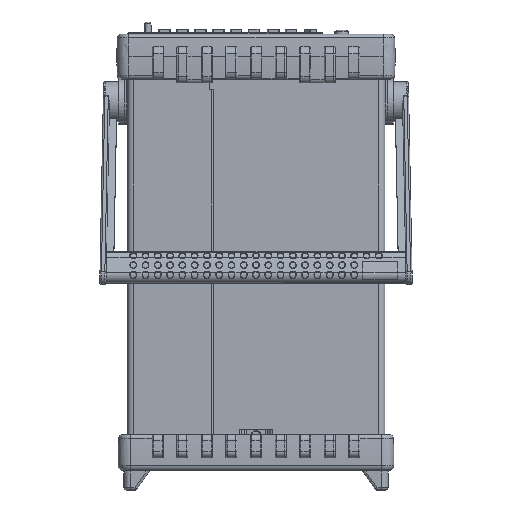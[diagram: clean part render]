
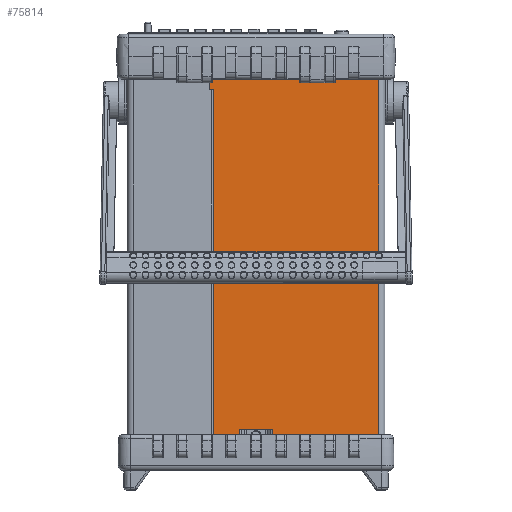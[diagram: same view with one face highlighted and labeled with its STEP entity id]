
A CAD part, front view. The second image highlights one B-rep face of the part: STEP entity #75814.
In plain terms, the highlighted planar face has unit normal (0, -1, 0).
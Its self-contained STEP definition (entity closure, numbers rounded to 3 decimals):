
#6057 = EDGE_CURVE ( 'NONE', #23082, #22445, #6914, .T. ) ;
#6097 = EDGE_CURVE ( 'NONE', #23082, #23088, #6968, .T. ) ;
#6914 = LINE ( 'NONE', #73503, #6919 ) ;
#6919 = VECTOR ( 'NONE', #73505, 1000. ) ;
#6968 = LINE ( 'NONE', #73531, #7012 ) ;
#7012 = VECTOR ( 'NONE', #73603, 1000. ) ;
#16540 = ORIENTED_EDGE ( 'NONE', *, *, #105175, .F. ) ;
#16542 = ORIENTED_EDGE ( 'NONE', *, *, #105173, .T. ) ;
#16544 = ORIENTED_EDGE ( 'NONE', *, *, #105171, .F. ) ;
#16546 = ORIENTED_EDGE ( 'NONE', *, *, #105168, .F. ) ;
#16548 = ORIENTED_EDGE ( 'NONE', *, *, #105166, .T. ) ;
#16551 = ORIENTED_EDGE ( 'NONE', *, *, #105164, .T. ) ;
#16553 = ORIENTED_EDGE ( 'NONE', *, *, #105161, .F. ) ;
#16555 = ORIENTED_EDGE ( 'NONE', *, *, #105178, .F. ) ;
#16557 = ORIENTED_EDGE ( 'NONE', *, *, #105159, .T. ) ;
#16558 = ORIENTED_EDGE ( 'NONE', *, *, #105157, .T. ) ;
#16559 = ORIENTED_EDGE ( 'NONE', *, *, #6057, .F. ) ;
#16561 = ORIENTED_EDGE ( 'NONE', *, *, #6097, .T. ) ;
#21567 = VERTEX_POINT ( 'NONE', #28842 ) ;
#21572 = VERTEX_POINT ( 'NONE', #28847 ) ;
#21578 = VERTEX_POINT ( 'NONE', #28855 ) ;
#21598 = VERTEX_POINT ( 'NONE', #28874 ) ;
#21743 = VERTEX_POINT ( 'NONE', #29028 ) ;
#21796 = VERTEX_POINT ( 'NONE', #29082 ) ;
#22445 = VERTEX_POINT ( 'NONE', #29771 ) ;
#22542 = VERTEX_POINT ( 'NONE', #29875 ) ;
#22816 = VERTEX_POINT ( 'NONE', #30221 ) ;
#22971 = VERTEX_POINT ( 'NONE', #30482 ) ;
#23082 = VERTEX_POINT ( 'NONE', #30669 ) ;
#23088 = VERTEX_POINT ( 'NONE', #30677 ) ;
#23241 = AXIS2_PLACEMENT_3D ( 'NONE', #48490, #48582, #48583 ) ;
#28410 = LINE ( 'NONE', #35940, #28438 ) ;
#28416 = LINE ( 'NONE', #35930, #28420 ) ;
#28418 = LINE ( 'NONE', #35949, #28424 ) ;
#28420 = VECTOR ( 'NONE', #35932, 1000. ) ;
#28422 = LINE ( 'NONE', #35954, #28427 ) ;
#28424 = VECTOR ( 'NONE', #35952, 1000. ) ;
#28426 = LINE ( 'NONE', #35959, #28430 ) ;
#28427 = VECTOR ( 'NONE', #35957, 1000. ) ;
#28428 = LINE ( 'NONE', #35964, #28433 ) ;
#28430 = VECTOR ( 'NONE', #35962, 1000. ) ;
#28432 = LINE ( 'NONE', #35969, #28435 ) ;
#28433 = VECTOR ( 'NONE', #35967, 1000. ) ;
#28435 = VECTOR ( 'NONE', #35972, 1000. ) ;
#28437 = LINE ( 'NONE', #35978, #28442 ) ;
#28438 = VECTOR ( 'NONE', #35974, 1000. ) ;
#28440 = LINE ( 'NONE', #35983, #28447 ) ;
#28442 = VECTOR ( 'NONE', #35981, 1000. ) ;
#28444 = LINE ( 'NONE', #35988, #28451 ) ;
#28447 = VECTOR ( 'NONE', #35986, 1000. ) ;
#28451 = VECTOR ( 'NONE', #35991, 1000. ) ;
#28842 = CARTESIAN_POINT ( 'NONE',  ( -38.05, -42.6, -340.05 ) ) ;
#28847 = CARTESIAN_POINT ( 'NONE',  ( -38.05, -42.6, -328.05 ) ) ;
#28855 = CARTESIAN_POINT ( 'NONE',  ( -13.743, -42.6, -318.05 ) ) ;
#28874 = CARTESIAN_POINT ( 'NONE',  ( 13.743, -42.6, -318.05 ) ) ;
#29028 = CARTESIAN_POINT ( 'NONE',  ( 100., -42.6, -29.05 ) ) ;
#29082 = CARTESIAN_POINT ( 'NONE',  ( -13.743, -42.6, -328.05 ) ) ;
#29771 = CARTESIAN_POINT ( 'NONE',  ( -38.05, -42.6, -41.05 ) ) ;
#29875 = CARTESIAN_POINT ( 'NONE',  ( 100., -42.6, -340.05 ) ) ;
#30221 = CARTESIAN_POINT ( 'NONE',  ( -38.05, -42.6, -29.05 ) ) ;
#30482 = CARTESIAN_POINT ( 'NONE',  ( 13.743, -42.6, -328.05 ) ) ;
#30669 = CARTESIAN_POINT ( 'NONE',  ( -34.4, -42.6, -41.05 ) ) ;
#30677 = CARTESIAN_POINT ( 'NONE',  ( -34.4, -42.6, -328.05 ) ) ;
#35930 = CARTESIAN_POINT ( 'NONE',  ( -38.05, -42.6, -29.05 ) ) ;
#35932 = DIRECTION ( 'NONE',  ( 0., 0., -1. ) ) ;
#35940 = CARTESIAN_POINT ( 'NONE',  ( 13.743, -42.6, -298.05 ) ) ;
#35949 = CARTESIAN_POINT ( 'NONE',  ( -38.05, -42.6, -29.05 ) ) ;
#35952 = DIRECTION ( 'NONE',  ( -1., 0., 0. ) ) ;
#35954 = CARTESIAN_POINT ( 'NONE',  ( -38.05, -42.6, -340.05 ) ) ;
#35957 = DIRECTION ( 'NONE',  ( -1., 0., 0. ) ) ;
#35959 = CARTESIAN_POINT ( 'NONE',  ( -38.05, -42.6, -29.05 ) ) ;
#35962 = DIRECTION ( 'NONE',  ( 0., 0., -1. ) ) ;
#35964 = CARTESIAN_POINT ( 'NONE',  ( -34.4, -42.6, -328.05 ) ) ;
#35967 = DIRECTION ( 'NONE',  ( -1., 0., 0. ) ) ;
#35969 = CARTESIAN_POINT ( 'NONE',  ( -12.5, -42.6, -328.05 ) ) ;
#35972 = DIRECTION ( 'NONE',  ( 1., 0., 0. ) ) ;
#35974 = DIRECTION ( 'NONE',  ( 0., 0., 1. ) ) ;
#35978 = CARTESIAN_POINT ( 'NONE',  ( -12.5, -42.6, -318.05 ) ) ;
#35981 = DIRECTION ( 'NONE',  ( 1., 0., 0. ) ) ;
#35983 = CARTESIAN_POINT ( 'NONE',  ( -13.743, -42.6, -298.05 ) ) ;
#35986 = DIRECTION ( 'NONE',  ( 0., 0., -1. ) ) ;
#35988 = CARTESIAN_POINT ( 'NONE',  ( 100., -42.6, -29.05 ) ) ;
#35991 = DIRECTION ( 'NONE',  ( 0., 0., -1. ) ) ;
#48490 = CARTESIAN_POINT ( 'NONE',  ( -38.05, -42.6, -29.05 ) ) ;
#48578 = PLANE ( 'NONE',  #23241 ) ;
#48582 = DIRECTION ( 'NONE',  ( 0., -1., 0. ) ) ;
#48583 = DIRECTION ( 'NONE',  ( 1., 0., 0. ) ) ;
#55847 = FACE_OUTER_BOUND ( 'NONE', #59298, .T. ) ;
#55860 = FACE_BOUND ( 'NONE', #59300, .T. ) ;
#59298 = EDGE_LOOP ( 'NONE', ( #16548, #16551, #16553, #16555, #16557, #16558, #16559, #16561 ) ) ;
#59300 = EDGE_LOOP ( 'NONE', ( #16540, #16542, #16544, #16546 ) ) ;
#73503 = CARTESIAN_POINT ( 'NONE',  ( -38.05, -42.6, -41.05 ) ) ;
#73505 = DIRECTION ( 'NONE',  ( -1., 0., 0. ) ) ;
#73531 = CARTESIAN_POINT ( 'NONE',  ( -34.4, -42.6, -41.05 ) ) ;
#73603 = DIRECTION ( 'NONE',  ( 0., 0., -1. ) ) ;
#75814 = ADVANCED_FACE ( 'NONE', ( #55860, #55847 ), #48578, .T. ) ;
#105157 = EDGE_CURVE ( 'NONE', #22816, #22445, #28416, .T. ) ;
#105159 = EDGE_CURVE ( 'NONE', #21743, #22816, #28418, .T. ) ;
#105161 = EDGE_CURVE ( 'NONE', #22542, #21567, #28422, .T. ) ;
#105164 = EDGE_CURVE ( 'NONE', #21572, #21567, #28426, .T. ) ;
#105166 = EDGE_CURVE ( 'NONE', #23088, #21572, #28428, .T. ) ;
#105168 = EDGE_CURVE ( 'NONE', #21796, #22971, #28432, .T. ) ;
#105171 = EDGE_CURVE ( 'NONE', #22971, #21598, #28410, .T. ) ;
#105173 = EDGE_CURVE ( 'NONE', #21578, #21598, #28437, .T. ) ;
#105175 = EDGE_CURVE ( 'NONE', #21578, #21796, #28440, .T. ) ;
#105178 = EDGE_CURVE ( 'NONE', #21743, #22542, #28444, .T. ) ;
